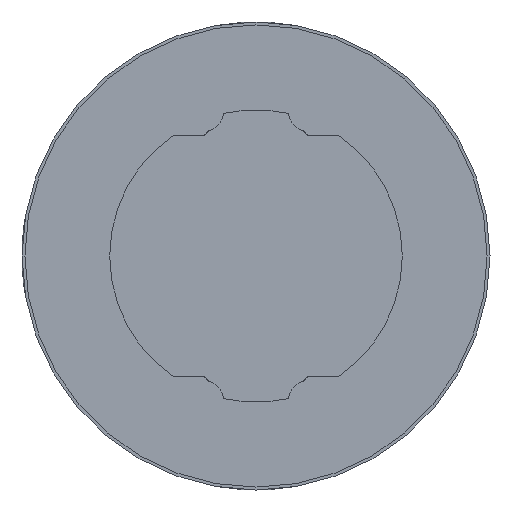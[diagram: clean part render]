
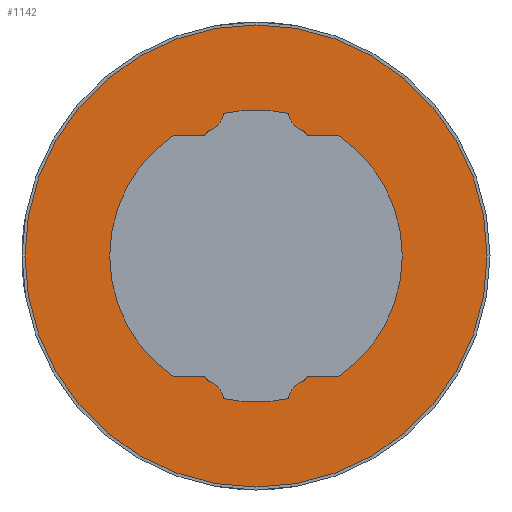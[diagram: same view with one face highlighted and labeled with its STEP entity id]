
A CAD part, left-side view. The second image highlights one B-rep face of the part: STEP entity #1142.
In plain terms, the highlighted planar face has unit normal (-1, 0, 0).
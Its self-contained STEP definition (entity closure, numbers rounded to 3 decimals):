
#46=PLANE('',#1265);
#101=LINE('',#1872,#189);
#102=LINE('',#1876,#190);
#103=LINE('',#1880,#191);
#104=LINE('',#1884,#192);
#105=LINE('',#1896,#193);
#106=LINE('',#1900,#194);
#107=LINE('',#1904,#195);
#108=LINE('',#1908,#196);
#189=VECTOR('',#1518,1000.);
#190=VECTOR('',#1521,1000.);
#191=VECTOR('',#1524,1000.);
#192=VECTOR('',#1527,1000.);
#193=VECTOR('',#1538,1000.);
#194=VECTOR('',#1541,1000.);
#195=VECTOR('',#1544,1000.);
#196=VECTOR('',#1547,1000.);
#381=ORIENTED_EDGE('',*,*,#641,.F.);
#382=ORIENTED_EDGE('',*,*,#642,.F.);
#383=ORIENTED_EDGE('',*,*,#643,.T.);
#384=ORIENTED_EDGE('',*,*,#644,.F.);
#385=ORIENTED_EDGE('',*,*,#645,.T.);
#386=ORIENTED_EDGE('',*,*,#646,.F.);
#387=ORIENTED_EDGE('',*,*,#647,.F.);
#388=ORIENTED_EDGE('',*,*,#648,.T.);
#389=ORIENTED_EDGE('',*,*,#649,.F.);
#390=ORIENTED_EDGE('',*,*,#650,.F.);
#391=ORIENTED_EDGE('',*,*,#651,.F.);
#392=ORIENTED_EDGE('',*,*,#652,.T.);
#393=ORIENTED_EDGE('',*,*,#653,.F.);
#394=ORIENTED_EDGE('',*,*,#654,.F.);
#395=ORIENTED_EDGE('',*,*,#655,.T.);
#396=ORIENTED_EDGE('',*,*,#656,.F.);
#397=ORIENTED_EDGE('',*,*,#657,.T.);
#398=ORIENTED_EDGE('',*,*,#658,.F.);
#399=ORIENTED_EDGE('',*,*,#659,.F.);
#400=ORIENTED_EDGE('',*,*,#660,.T.);
#401=ORIENTED_EDGE('',*,*,#661,.F.);
#402=ORIENTED_EDGE('',*,*,#662,.F.);
#403=ORIENTED_EDGE('',*,*,#663,.F.);
#404=ORIENTED_EDGE('',*,*,#664,.T.);
#405=ORIENTED_EDGE('',*,*,#665,.F.);
#641=EDGE_CURVE('',#783,#783,#881,.T.);
#642=EDGE_CURVE('',#784,#785,#882,.F.);
#643=EDGE_CURVE('',#784,#786,#883,.F.);
#644=EDGE_CURVE('',#787,#786,#884,.F.);
#645=EDGE_CURVE('',#787,#788,#885,.F.);
#646=EDGE_CURVE('',#789,#788,#886,.F.);
#647=EDGE_CURVE('',#790,#789,#101,.T.);
#648=EDGE_CURVE('',#790,#791,#887,.F.);
#649=EDGE_CURVE('',#792,#791,#102,.T.);
#650=EDGE_CURVE('',#793,#792,#888,.F.);
#651=EDGE_CURVE('',#794,#793,#103,.T.);
#652=EDGE_CURVE('',#794,#795,#889,.F.);
#653=EDGE_CURVE('',#796,#795,#104,.T.);
#654=EDGE_CURVE('',#797,#796,#890,.F.);
#655=EDGE_CURVE('',#797,#798,#891,.F.);
#656=EDGE_CURVE('',#799,#798,#892,.F.);
#657=EDGE_CURVE('',#799,#800,#893,.F.);
#658=EDGE_CURVE('',#801,#800,#894,.F.);
#659=EDGE_CURVE('',#802,#801,#105,.T.);
#660=EDGE_CURVE('',#802,#803,#895,.F.);
#661=EDGE_CURVE('',#804,#803,#106,.T.);
#662=EDGE_CURVE('',#805,#804,#896,.F.);
#663=EDGE_CURVE('',#806,#805,#107,.T.);
#664=EDGE_CURVE('',#806,#807,#897,.F.);
#665=EDGE_CURVE('',#785,#807,#108,.T.);
#783=VERTEX_POINT('',#1860);
#784=VERTEX_POINT('',#1862);
#785=VERTEX_POINT('',#1863);
#786=VERTEX_POINT('',#1865);
#787=VERTEX_POINT('',#1867);
#788=VERTEX_POINT('',#1869);
#789=VERTEX_POINT('',#1871);
#790=VERTEX_POINT('',#1873);
#791=VERTEX_POINT('',#1875);
#792=VERTEX_POINT('',#1877);
#793=VERTEX_POINT('',#1879);
#794=VERTEX_POINT('',#1881);
#795=VERTEX_POINT('',#1883);
#796=VERTEX_POINT('',#1885);
#797=VERTEX_POINT('',#1887);
#798=VERTEX_POINT('',#1889);
#799=VERTEX_POINT('',#1891);
#800=VERTEX_POINT('',#1893);
#801=VERTEX_POINT('',#1895);
#802=VERTEX_POINT('',#1897);
#803=VERTEX_POINT('',#1899);
#804=VERTEX_POINT('',#1901);
#805=VERTEX_POINT('',#1903);
#806=VERTEX_POINT('',#1905);
#807=VERTEX_POINT('',#1907);
#881=CIRCLE('',#1266,15.8);
#882=CIRCLE('',#1267,0.3);
#883=CIRCLE('',#1268,1.4);
#884=CIRCLE('',#1269,10.);
#885=CIRCLE('',#1270,1.4);
#886=CIRCLE('',#1271,0.3);
#887=CIRCLE('',#1272,0.3);
#888=CIRCLE('',#1273,10.);
#889=CIRCLE('',#1274,0.3);
#890=CIRCLE('',#1275,0.3);
#891=CIRCLE('',#1276,1.4);
#892=CIRCLE('',#1277,10.);
#893=CIRCLE('',#1278,1.4);
#894=CIRCLE('',#1279,0.3);
#895=CIRCLE('',#1280,0.3);
#896=CIRCLE('',#1281,10.);
#897=CIRCLE('',#1282,0.3);
#947=EDGE_LOOP('',(#381));
#948=EDGE_LOOP('',(#382,#383,#384,#385,#386,#387,#388,#389,#390,#391,#392,
#393,#394,#395,#396,#397,#398,#399,#400,#401,#402,#403,#404,#405));
#1025=FACE_BOUND('',#947,.T.);
#1026=FACE_BOUND('',#948,.T.);
#1142=ADVANCED_FACE('',(#1025,#1026),#46,.F.);
#1265=AXIS2_PLACEMENT_3D('',#1858,#1504,#1505);
#1266=AXIS2_PLACEMENT_3D('',#1859,#1506,#1507);
#1267=AXIS2_PLACEMENT_3D('',#1861,#1508,#1509);
#1268=AXIS2_PLACEMENT_3D('',#1864,#1510,#1511);
#1269=AXIS2_PLACEMENT_3D('',#1866,#1512,#1513);
#1270=AXIS2_PLACEMENT_3D('',#1868,#1514,#1515);
#1271=AXIS2_PLACEMENT_3D('',#1870,#1516,#1517);
#1272=AXIS2_PLACEMENT_3D('',#1874,#1519,#1520);
#1273=AXIS2_PLACEMENT_3D('',#1878,#1522,#1523);
#1274=AXIS2_PLACEMENT_3D('',#1882,#1525,#1526);
#1275=AXIS2_PLACEMENT_3D('',#1886,#1528,#1529);
#1276=AXIS2_PLACEMENT_3D('',#1888,#1530,#1531);
#1277=AXIS2_PLACEMENT_3D('',#1890,#1532,#1533);
#1278=AXIS2_PLACEMENT_3D('',#1892,#1534,#1535);
#1279=AXIS2_PLACEMENT_3D('',#1894,#1536,#1537);
#1280=AXIS2_PLACEMENT_3D('',#1898,#1539,#1540);
#1281=AXIS2_PLACEMENT_3D('',#1902,#1542,#1543);
#1282=AXIS2_PLACEMENT_3D('',#1906,#1545,#1546);
#1504=DIRECTION('',(1.,0.,0.));
#1505=DIRECTION('',(0.,0.,-1.));
#1506=DIRECTION('',(1.,0.,0.));
#1507=DIRECTION('',(0.,0.,-1.));
#1508=DIRECTION('',(1.,0.,0.));
#1509=DIRECTION('',(0.,0.,-1.));
#1510=DIRECTION('',(1.,0.,0.));
#1511=DIRECTION('',(0.,0.,-1.));
#1512=DIRECTION('',(1.,0.,0.));
#1513=DIRECTION('',(0.,0.,-1.));
#1514=DIRECTION('',(1.,0.,0.));
#1515=DIRECTION('',(0.,0.,-1.));
#1516=DIRECTION('',(1.,0.,0.));
#1517=DIRECTION('',(0.,0.,-1.));
#1518=DIRECTION('',(0.,0.5,0.866));
#1519=DIRECTION('',(1.,0.,0.));
#1520=DIRECTION('',(0.,0.,-1.));
#1521=DIRECTION('',(0.,1.,0.));
#1522=DIRECTION('',(1.,0.,0.));
#1523=DIRECTION('',(0.,0.,-1.));
#1524=DIRECTION('',(0.,-1.,0.));
#1525=DIRECTION('',(1.,0.,0.));
#1526=DIRECTION('',(0.,0.,-1.));
#1527=DIRECTION('',(0.,-0.5,0.866));
#1528=DIRECTION('',(1.,0.,0.));
#1529=DIRECTION('',(0.,0.,-1.));
#1530=DIRECTION('',(1.,0.,0.));
#1531=DIRECTION('',(0.,0.,-1.));
#1532=DIRECTION('',(1.,0.,0.));
#1533=DIRECTION('',(0.,0.,-1.));
#1534=DIRECTION('',(1.,0.,0.));
#1535=DIRECTION('',(0.,0.,-1.));
#1536=DIRECTION('',(1.,0.,0.));
#1537=DIRECTION('',(0.,0.,-1.));
#1538=DIRECTION('',(0.,-0.5,-0.866));
#1539=DIRECTION('',(1.,0.,0.));
#1540=DIRECTION('',(0.,0.,-1.));
#1541=DIRECTION('',(0.,-1.,0.));
#1542=DIRECTION('',(1.,0.,0.));
#1543=DIRECTION('',(0.,0.,-1.));
#1544=DIRECTION('',(0.,1.,0.));
#1545=DIRECTION('',(1.,0.,0.));
#1546=DIRECTION('',(0.,0.,-1.));
#1547=DIRECTION('',(0.,0.5,-0.866));
#1858=CARTESIAN_POINT('',(-29.5,0.,0.));
#1859=CARTESIAN_POINT('',(-29.5,0.,0.));
#1860=CARTESIAN_POINT('',(-29.5,0.,-15.8));
#1861=CARTESIAN_POINT('',(-29.5,3.099,8.292));
#1862=CARTESIAN_POINT('',(-29.5,3.189,8.578));
#1863=CARTESIAN_POINT('',(-29.5,3.359,8.442));
#1864=CARTESIAN_POINT('',(-29.5,3.608,9.914));
#1865=CARTESIAN_POINT('',(-29.5,2.218,9.751));
#1866=CARTESIAN_POINT('',(-29.5,0.,0.));
#1867=CARTESIAN_POINT('',(-29.5,-2.218,9.751));
#1868=CARTESIAN_POINT('',(-29.5,-3.608,9.914));
#1869=CARTESIAN_POINT('',(-29.5,-3.189,8.578));
#1870=CARTESIAN_POINT('',(-29.5,-3.099,8.292));
#1871=CARTESIAN_POINT('',(-29.5,-3.359,8.442));
#1872=CARTESIAN_POINT('',(-29.5,-6.175,3.565));
#1873=CARTESIAN_POINT('',(-29.5,-3.383,8.4));
#1874=CARTESIAN_POINT('',(-29.5,-3.643,8.55));
#1875=CARTESIAN_POINT('',(-29.5,-3.643,8.25));
#1876=CARTESIAN_POINT('',(-29.5,0.,8.25));
#1877=CARTESIAN_POINT('',(-29.5,-5.651,8.25));
#1878=CARTESIAN_POINT('',(-29.5,0.,0.));
#1879=CARTESIAN_POINT('',(-29.5,-5.651,-8.25));
#1880=CARTESIAN_POINT('',(-29.5,0.,-8.25));
#1881=CARTESIAN_POINT('',(-29.5,-3.643,-8.25));
#1882=CARTESIAN_POINT('',(-29.5,-3.643,-8.55));
#1883=CARTESIAN_POINT('',(-29.5,-3.383,-8.4));
#1884=CARTESIAN_POINT('',(-29.5,-6.175,-3.565));
#1885=CARTESIAN_POINT('',(-29.5,-3.359,-8.442));
#1886=CARTESIAN_POINT('',(-29.5,-3.099,-8.292));
#1887=CARTESIAN_POINT('',(-29.5,-3.189,-8.578));
#1888=CARTESIAN_POINT('',(-29.5,-3.608,-9.914));
#1889=CARTESIAN_POINT('',(-29.5,-2.218,-9.751));
#1890=CARTESIAN_POINT('',(-29.5,0.,0.));
#1891=CARTESIAN_POINT('',(-29.5,2.218,-9.751));
#1892=CARTESIAN_POINT('',(-29.5,3.608,-9.914));
#1893=CARTESIAN_POINT('',(-29.5,3.189,-8.578));
#1894=CARTESIAN_POINT('',(-29.5,3.099,-8.292));
#1895=CARTESIAN_POINT('',(-29.5,3.359,-8.442));
#1896=CARTESIAN_POINT('',(-29.5,6.175,-3.565));
#1897=CARTESIAN_POINT('',(-29.5,3.383,-8.4));
#1898=CARTESIAN_POINT('',(-29.5,3.643,-8.55));
#1899=CARTESIAN_POINT('',(-29.5,3.643,-8.25));
#1900=CARTESIAN_POINT('',(-29.5,0.,-8.25));
#1901=CARTESIAN_POINT('',(-29.5,5.651,-8.25));
#1902=CARTESIAN_POINT('',(-29.5,0.,0.));
#1903=CARTESIAN_POINT('',(-29.5,5.651,8.25));
#1904=CARTESIAN_POINT('',(-29.5,0.,8.25));
#1905=CARTESIAN_POINT('',(-29.5,3.643,8.25));
#1906=CARTESIAN_POINT('',(-29.5,3.643,8.55));
#1907=CARTESIAN_POINT('',(-29.5,3.383,8.4));
#1908=CARTESIAN_POINT('',(-29.5,6.175,3.565));
